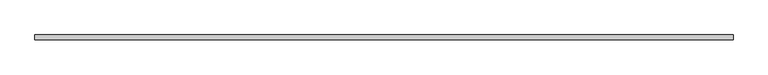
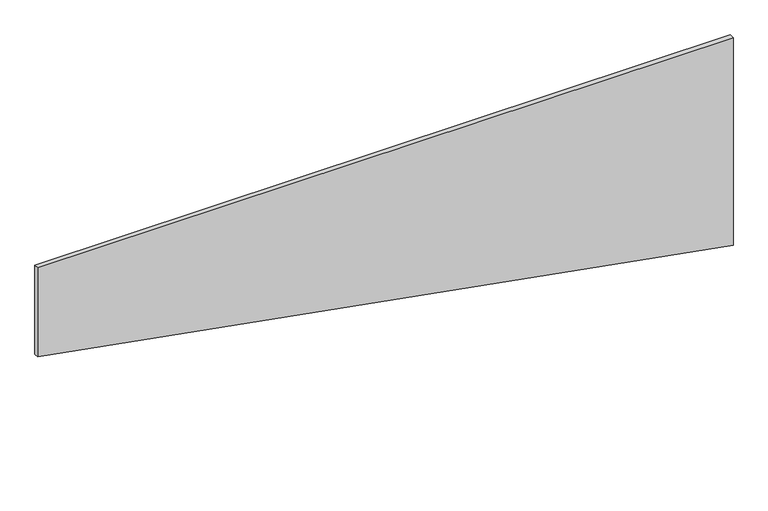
"""IFC4 building model written with IfcOpenShell, lengths in millimetres: plate geometry, 系統嵌板 : 玻璃 1.0cm."""

from ifc_helpers import new_model, si_unit, frame, origin, place, context, project, spatial, polyline, outline, extrude, source, transform, mapped, element, save


def plate_77a90979(model_context):
    return source(origin(), model_context, "Body", "SweptSolid", [
        extrude(outline(polyline([(271.4911622, -750.0), (0.0, 750.0), (473.9122807, 750.0), (473.9122807, -750.0), (271.4911622, -750.0)])), frame((0.0, -5.0, 0.0), z_axis=(0.0, 1.0, 0.0), x_axis=(0.0, 0.0, 1.0)), (0.0, 0.0, 1.0), 10.0),
    ])


if __name__ == "__main__":
    model = new_model("IFC4")
    model_context = context("Model", 3, world=origin())
    ifc_project = project(units=[si_unit("LENGTHUNIT", "METRE", prefix="MILLI")], contexts=[model_context])
    site = spatial("IfcSite", under=ifc_project)
    building = spatial("IfcBuilding", under=site)
    placement = place(None, origin())
    plate_shape = plate_77a90979(model_context)
    element("IfcPlate", 1, ObjectType="系統嵌板 : 玻璃 1.0cm", at=placement, inside=building, context=model_context, shape_type="MappedRepresentation", body=[
        mapped(plate_shape, transform((0.0, 0.0, 0.0), x_axis=(1.0, 0.0, 0.0), y_axis=(0.0, 1.0, 0.0), z_axis=(0.0, 0.0, 1.0))),
    ])
    save(model, "model.ifc")
